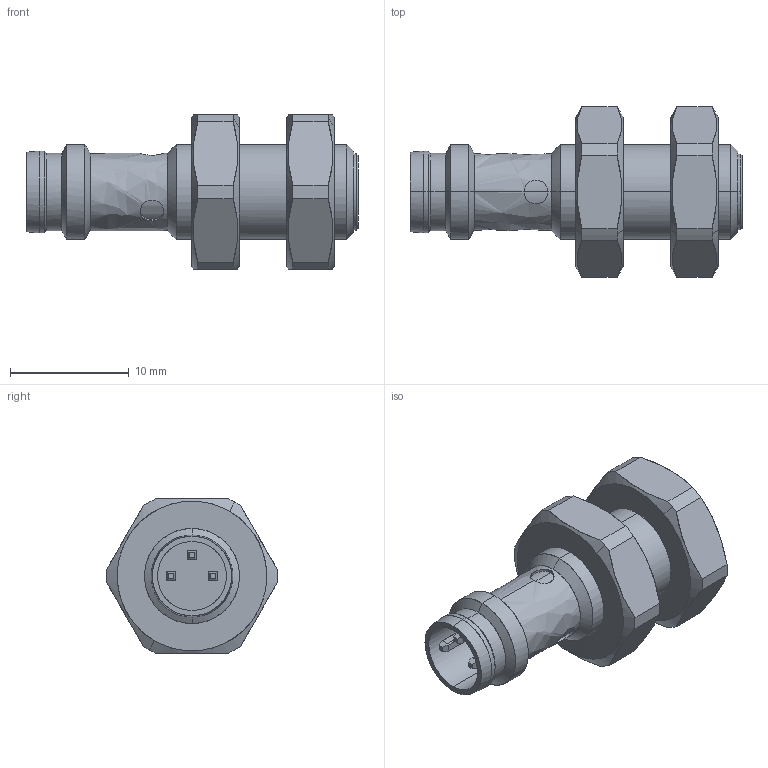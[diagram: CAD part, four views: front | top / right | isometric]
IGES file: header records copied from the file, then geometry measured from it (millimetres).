
Start section: Comment
Global section: file name: IFRM 08xxxA5_S35L.igs; native system:  By Spatial Corp.; preprocessor: XPlus GENERIC/IGES 3.0; author: Author; organization: Title; date: 20040805.075558; units: inch
Bounding box: 27.95 x 14.36 x 13 mm (x, y, z)
Surface area: 1786.1 mm2 (no closed solid volume)
Topology: 0 solids, 0 shells, 131 faces, 632 edges, 632 vertices
Faces by surface type: bspline 131
